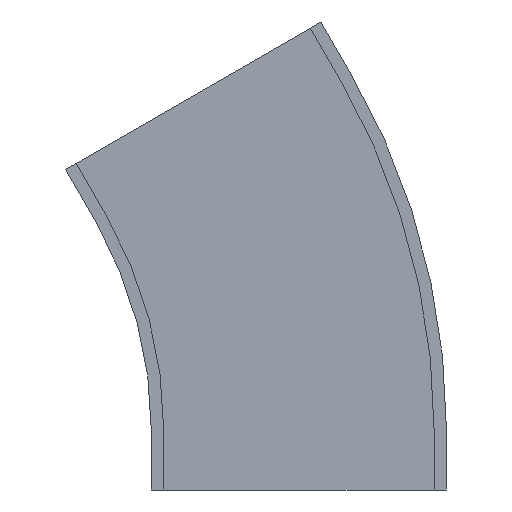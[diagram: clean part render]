
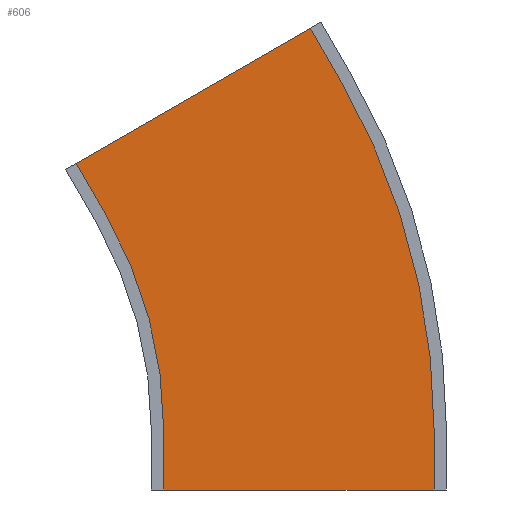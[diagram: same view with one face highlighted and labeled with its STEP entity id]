
A CAD part, front view. The second image highlights one B-rep face of the part: STEP entity #606.
In plain terms, the highlighted planar face has unit normal (0, -1, 0).
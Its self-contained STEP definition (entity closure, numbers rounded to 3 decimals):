
#258 = EDGE_LOOP ( 'NONE', ( #322, #321, #320, #319, #318, #317, #316, #315 ) ) ;
#315 = ORIENTED_EDGE ( 'NONE', *, *, #1911, .T. ) ;
#316 = ORIENTED_EDGE ( 'NONE', *, *, #1910, .F. ) ;
#317 = ORIENTED_EDGE ( 'NONE', *, *, #1909, .F. ) ;
#318 = ORIENTED_EDGE ( 'NONE', *, *, #1902, .T. ) ;
#319 = ORIENTED_EDGE ( 'NONE', *, *, #1908, .T. ) ;
#320 = ORIENTED_EDGE ( 'NONE', *, *, #1907, .F. ) ;
#321 = ORIENTED_EDGE ( 'NONE', *, *, #1906, .F. ) ;
#322 = ORIENTED_EDGE ( 'NONE', *, *, #1905, .F. ) ;
#378 = FACE_OUTER_BOUND ( 'NONE', #258, .T. ) ;
#606 = ADVANCED_FACE ( 'NONE', ( #378 ), #662, .F. ) ;
#660 = CARTESIAN_POINT ( 'NONE',  ( 633.411, -68., 365.7 ) ) ;
#662 = PLANE ( 'NONE',  #1643 ) ;
#664 = DIRECTION ( 'NONE',  ( 0., 1., 0. ) ) ;
#665 = DIRECTION ( 'NONE',  ( -1., 0., 0. ) ) ;
#989 = CARTESIAN_POINT ( 'NONE',  ( 1188.6, -68., -100. ) ) ;
#992 = CARTESIAN_POINT ( 'NONE',  ( 583.411, -68., 452.303 ) ) ;
#993 = CARTESIAN_POINT ( 'NONE',  ( 1029.358, -68., 594.3 ) ) ;
#994 = CARTESIAN_POINT ( 'NONE',  ( 979.358, -68., 680.903 ) ) ;
#995 = CARTESIAN_POINT ( 'NONE',  ( 731.4, -68., -100. ) ) ;
#996 = CARTESIAN_POINT ( 'NONE',  ( 731.4, -68., 0. ) ) ;
#999 = CARTESIAN_POINT ( 'NONE',  ( 633.411, -68., 365.7 ) ) ;
#1006 = CARTESIAN_POINT ( 'NONE',  ( 1188.6, -68., 0. ) ) ;
#1243 = CIRCLE ( 'NONE', #1697, 731.4 ) ;
#1245 = LINE ( 'NONE', #1352, #1252 ) ;
#1248 = CIRCLE ( 'NONE', #1698, 1188.6 ) ;
#1250 = LINE ( 'NONE', #1350, #1254 ) ;
#1251 = LINE ( 'NONE', #1351, #1260 ) ;
#1252 = VECTOR ( 'NONE', #1343, 1000. ) ;
#1253 = LINE ( 'NONE', #1357, #1256 ) ;
#1254 = VECTOR ( 'NONE', #1356, 1000. ) ;
#1255 = LINE ( 'NONE', #1359, #1258 ) ;
#1256 = VECTOR ( 'NONE', #1358, 1000. ) ;
#1258 = VECTOR ( 'NONE', #1361, 1000. ) ;
#1259 = LINE ( 'NONE', #1363, #1262 ) ;
#1260 = VECTOR ( 'NONE', #1362, 1000. ) ;
#1262 = VECTOR ( 'NONE', #1364, 1000. ) ;
#1343 = DIRECTION ( 'NONE',  ( 0.5, 0., -0.866 ) ) ;
#1345 = CARTESIAN_POINT ( 'NONE',  ( 0., -68., 0. ) ) ;
#1346 = DIRECTION ( 'NONE',  ( 0., 1., 0. ) ) ;
#1347 = DIRECTION ( 'NONE',  ( -1., 0., 0. ) ) ;
#1350 = CARTESIAN_POINT ( 'NONE',  ( -50., -68., 86.603 ) ) ;
#1351 = CARTESIAN_POINT ( 'NONE',  ( 0., -68., -100. ) ) ;
#1352 = CARTESIAN_POINT ( 'NONE',  ( 979.358, -68., 680.903 ) ) ;
#1353 = CARTESIAN_POINT ( 'NONE',  ( 0., -68., 0. ) ) ;
#1354 = DIRECTION ( 'NONE',  ( 0., 1., 0. ) ) ;
#1355 = DIRECTION ( 'NONE',  ( -1., 0., 0. ) ) ;
#1356 = DIRECTION ( 'NONE',  ( 0.866, 0., 0.5 ) ) ;
#1357 = CARTESIAN_POINT ( 'NONE',  ( 583.411, -68., 452.303 ) ) ;
#1358 = DIRECTION ( 'NONE',  ( 0.5, 0., -0.866 ) ) ;
#1359 = CARTESIAN_POINT ( 'NONE',  ( 731.4, -68., -100. ) ) ;
#1361 = DIRECTION ( 'NONE',  ( 0., 0., 1. ) ) ;
#1362 = DIRECTION ( 'NONE',  ( -1., 0., 0. ) ) ;
#1363 = CARTESIAN_POINT ( 'NONE',  ( 1188.6, -68., -100. ) ) ;
#1364 = DIRECTION ( 'NONE',  ( 0., 0., 1. ) ) ;
#1643 = AXIS2_PLACEMENT_3D ( 'NONE', #660, #664, #665 ) ;
#1697 = AXIS2_PLACEMENT_3D ( 'NONE', #1345, #1346, #1347 ) ;
#1698 = AXIS2_PLACEMENT_3D ( 'NONE', #1353, #1354, #1355 ) ;
#1794 = VERTEX_POINT ( 'NONE', #989 ) ;
#1797 = VERTEX_POINT ( 'NONE', #992 ) ;
#1798 = VERTEX_POINT ( 'NONE', #993 ) ;
#1799 = VERTEX_POINT ( 'NONE', #994 ) ;
#1800 = VERTEX_POINT ( 'NONE', #995 ) ;
#1801 = VERTEX_POINT ( 'NONE', #996 ) ;
#1804 = VERTEX_POINT ( 'NONE', #999 ) ;
#1811 = VERTEX_POINT ( 'NONE', #1006 ) ;
#1902 = EDGE_CURVE ( 'NONE', #1804, #1801, #1243, .T. ) ;
#1905 = EDGE_CURVE ( 'NONE', #1798, #1811, #1248, .T. ) ;
#1906 = EDGE_CURVE ( 'NONE', #1799, #1798, #1245, .T. ) ;
#1907 = EDGE_CURVE ( 'NONE', #1797, #1799, #1250, .T. ) ;
#1908 = EDGE_CURVE ( 'NONE', #1797, #1804, #1253, .T. ) ;
#1909 = EDGE_CURVE ( 'NONE', #1800, #1801, #1255, .T. ) ;
#1910 = EDGE_CURVE ( 'NONE', #1794, #1800, #1251, .T. ) ;
#1911 = EDGE_CURVE ( 'NONE', #1794, #1811, #1259, .T. ) ;
